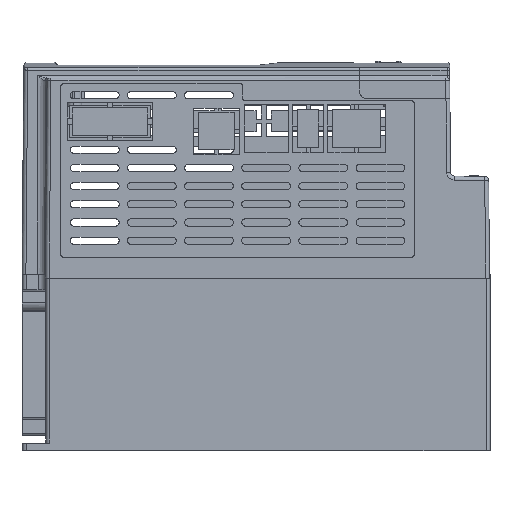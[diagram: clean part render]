
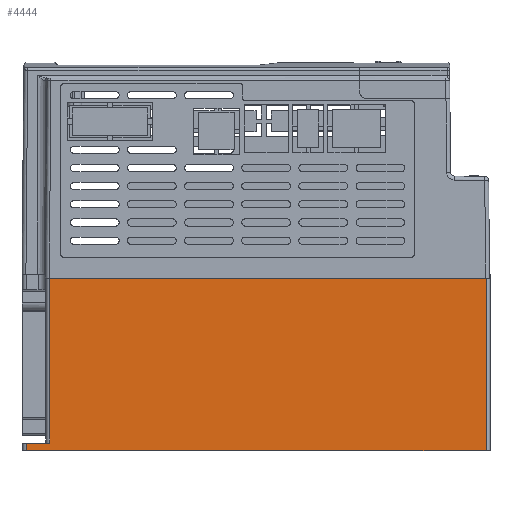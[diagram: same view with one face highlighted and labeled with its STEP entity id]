
A CAD part, left-side view. The second image highlights one B-rep face of the part: STEP entity #4444.
In plain terms, the highlighted planar face has unit normal (-1, 0, 0).
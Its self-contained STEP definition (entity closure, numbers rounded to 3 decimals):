
#894=DIRECTION('',(0.,1.,0.));
#895=VECTOR('',#894,168.);
#896=CARTESIAN_POINT('',(-53.,-88.5,-1.5));
#897=LINE('',#896,#895);
#898=DIRECTION('',(0.,0.,1.));
#899=VECTOR('',#898,63.5);
#900=CARTESIAN_POINT('',(-53.,79.5,-65.));
#901=LINE('',#900,#899);
#902=DIRECTION('',(0.,0.,-1.));
#903=VECTOR('',#902,66.5);
#904=CARTESIAN_POINT('',(-53.,-88.5,-1.5));
#905=LINE('',#904,#903);
#906=DIRECTION('',(0.,1.,0.));
#907=VECTOR('',#906,177.);
#908=CARTESIAN_POINT('',(-53.,-88.5,-68.));
#909=LINE('',#908,#907);
#910=DIRECTION('',(0.,0.,1.));
#911=VECTOR('',#910,3.);
#912=CARTESIAN_POINT('',(-53.,88.5,-68.));
#913=LINE('',#912,#911);
#914=DIRECTION('',(0.,1.,0.));
#915=VECTOR('',#914,9.);
#916=CARTESIAN_POINT('',(-53.,79.5,-65.));
#917=LINE('',#916,#915);
#3097=CARTESIAN_POINT('',(-53.,88.5,-68.));
#3099=VERTEX_POINT('',#3097);
#3102=CARTESIAN_POINT('',(-53.,-88.5,-68.));
#3104=VERTEX_POINT('',#3102);
#3105=CARTESIAN_POINT('',(-53.,-88.5,-1.5));
#3106=VERTEX_POINT('',#3105);
#3289=CARTESIAN_POINT('',(-53.,79.5,-65.));
#3290=CARTESIAN_POINT('',(-53.,79.5,-1.5));
#3291=VERTEX_POINT('',#3289);
#3292=VERTEX_POINT('',#3290);
#3317=CARTESIAN_POINT('',(-53.,88.5,-65.));
#3318=VERTEX_POINT('',#3317);
#4427=CARTESIAN_POINT('',(-53.,-90.,-68.));
#4428=DIRECTION('',(-1.,0.,0.));
#4429=DIRECTION('',(0.,0.,1.));
#4430=AXIS2_PLACEMENT_3D('',#4427,#4428,#4429);
#4431=PLANE('',#4430);
#4432=ORIENTED_EDGE('',*,*,#4418,.T.);
#4433=ORIENTED_EDGE('',*,*,#4408,.F.);
#4435=ORIENTED_EDGE('',*,*,#4434,.T.);
#4437=ORIENTED_EDGE('',*,*,#4436,.T.);
#4439=ORIENTED_EDGE('',*,*,#4438,.T.);
#4441=ORIENTED_EDGE('',*,*,#4440,.F.);
#4442=EDGE_LOOP('',(#4432,#4433,#4435,#4437,#4439,#4441));
#4443=FACE_OUTER_BOUND('',#4442,.F.);
#4444=ADVANCED_FACE('',(#4443),#4431,.T.);
#4408=EDGE_CURVE('',#3106,#3292,#897,.T.);
#4418=EDGE_CURVE('',#3291,#3292,#901,.T.);
#4434=EDGE_CURVE('',#3106,#3104,#905,.T.);
#4436=EDGE_CURVE('',#3104,#3099,#909,.T.);
#4438=EDGE_CURVE('',#3099,#3318,#913,.T.);
#4440=EDGE_CURVE('',#3291,#3318,#917,.T.);
